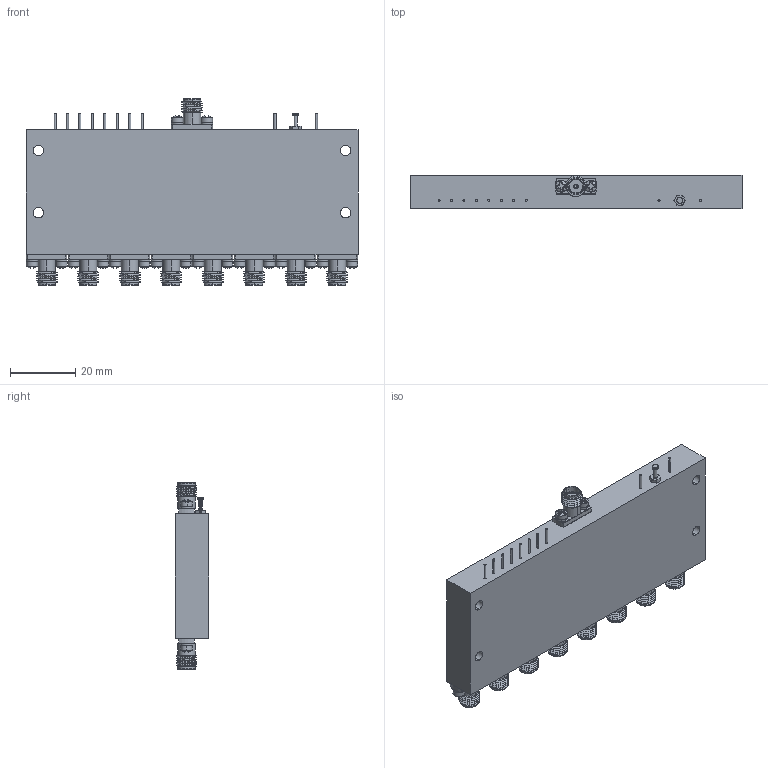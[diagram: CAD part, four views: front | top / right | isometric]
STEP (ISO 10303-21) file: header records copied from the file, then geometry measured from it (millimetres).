
FILE_DESCRIPTION (( 'STEP AP214' ), '1' );
FILE_NAME ('P8T-10G31G-70-T-55-292FF-ROHS.STEP', '2023-01-10T14:57:57', ( '' ), ( '' ), 'SwSTEP 2.0', 'SolidWorks 2022', '' );
FILE_SCHEMA (( 'AUTOMOTIVE_DESIGN' ));
Length unit declared in the file: inch
Products named in the file (1): P8T-10G31G-70-T-55-292FF-ROHS
Bounding box: 101.6 x 10.29 x 57.15 mm (x, y, z)
Volume: 42141.6 mm3; surface area: 23374.3 mm2
Topology: 86 solids, 86 shells, 2120 faces, 6499 edges, 4832 vertices
Faces by surface type: plane 893, cylinder 570, torus 393, cone 171, sphere 63, bspline 30
Entity records: 120412 total; most frequent: CARTESIAN_POINT 33151, ORIENTED_EDGE 12902, DIRECTION 11602, EDGE_CURVE 6451, VERTEX_POINT 4832, AXIS2_PLACEMENT_3D 4456, LINE 2690, VECTOR 2690
